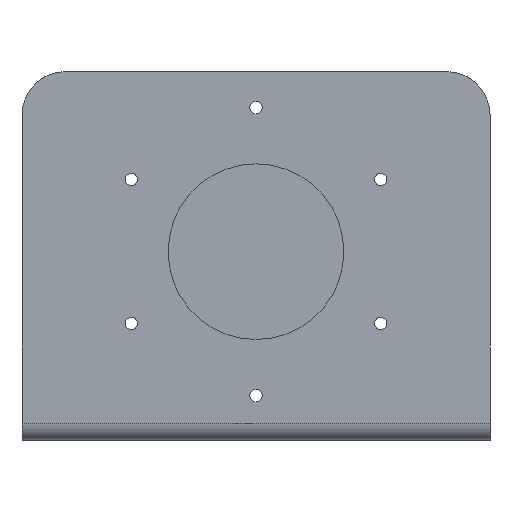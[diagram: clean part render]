
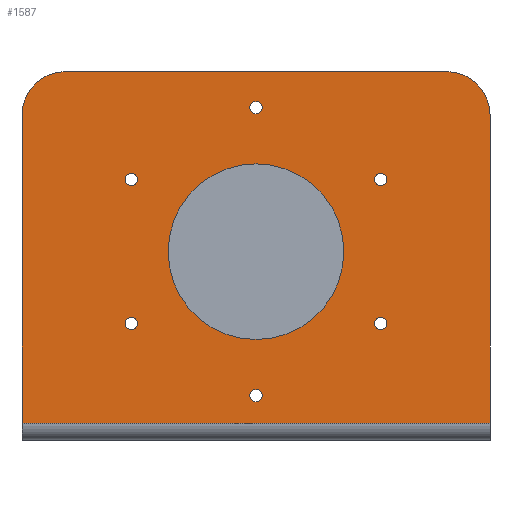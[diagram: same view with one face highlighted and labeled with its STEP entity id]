
A CAD part, front view. The second image highlights one B-rep face of the part: STEP entity #1587.
In plain terms, the highlighted planar face has unit normal (0, -1, 0).
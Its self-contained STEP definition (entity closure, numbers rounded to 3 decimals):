
#36=DIRECTION('',(0.,0.,-1.));
#37=VECTOR('',#36,214.);
#38=CARTESIAN_POINT('',(-162.5,0.,226.));
#39=LINE('',#38,#37);
#373=CARTESIAN_POINT('',(0.,0.,31.));
#374=DIRECTION('',(0.,1.,0.));
#375=DIRECTION('',(-1.,0.,0.));
#376=AXIS2_PLACEMENT_3D('',#373,#374,#375);
#378=CARTESIAN_POINT('',(0.,0.,31.));
#379=DIRECTION('',(0.,1.,0.));
#380=DIRECTION('',(1.,0.,0.));
#381=AXIS2_PLACEMENT_3D('',#378,#379,#380);
#383=CARTESIAN_POINT('',(-86.603,0.,81.));
#384=DIRECTION('',(0.,1.,0.));
#385=DIRECTION('',(0.5,0.,-0.866));
#386=AXIS2_PLACEMENT_3D('',#383,#384,#385);
#388=CARTESIAN_POINT('',(-86.603,0.,81.));
#389=DIRECTION('',(0.,1.,0.));
#390=DIRECTION('',(-0.5,0.,0.866));
#391=AXIS2_PLACEMENT_3D('',#388,#389,#390);
#393=CARTESIAN_POINT('',(-86.603,0.,181.));
#394=DIRECTION('',(0.,1.,0.));
#395=DIRECTION('',(0.5,0.,0.866));
#396=AXIS2_PLACEMENT_3D('',#393,#394,#395);
#398=CARTESIAN_POINT('',(-86.603,0.,181.));
#399=DIRECTION('',(0.,1.,0.));
#400=DIRECTION('',(-0.5,0.,-0.866));
#401=AXIS2_PLACEMENT_3D('',#398,#399,#400);
#403=CARTESIAN_POINT('',(86.603,0.,181.));
#404=DIRECTION('',(0.,1.,0.));
#405=DIRECTION('',(-0.5,0.,0.866));
#406=AXIS2_PLACEMENT_3D('',#403,#404,#405);
#408=CARTESIAN_POINT('',(86.603,0.,181.));
#409=DIRECTION('',(0.,1.,0.));
#410=DIRECTION('',(0.5,0.,-0.866));
#411=AXIS2_PLACEMENT_3D('',#408,#409,#410);
#413=CARTESIAN_POINT('',(86.603,0.,81.));
#414=DIRECTION('',(0.,1.,0.));
#415=DIRECTION('',(-0.5,0.,-0.866));
#416=AXIS2_PLACEMENT_3D('',#413,#414,#415);
#418=CARTESIAN_POINT('',(86.603,0.,81.));
#419=DIRECTION('',(0.,1.,0.));
#420=DIRECTION('',(0.5,0.,0.866));
#421=AXIS2_PLACEMENT_3D('',#418,#419,#420);
#423=CARTESIAN_POINT('',(0.,0.,231.));
#424=DIRECTION('',(0.,1.,0.));
#425=DIRECTION('',(-1.,0.,0.));
#426=AXIS2_PLACEMENT_3D('',#423,#424,#425);
#428=CARTESIAN_POINT('',(0.,0.,231.));
#429=DIRECTION('',(0.,1.,0.));
#430=DIRECTION('',(1.,0.,0.));
#431=AXIS2_PLACEMENT_3D('',#428,#429,#430);
#433=CARTESIAN_POINT('',(0.,0.,131.));
#434=DIRECTION('',(0.,1.,0.));
#435=DIRECTION('',(1.,0.,0.));
#436=AXIS2_PLACEMENT_3D('',#433,#434,#435);
#438=CARTESIAN_POINT('',(0.,0.,131.));
#439=DIRECTION('',(0.,1.,0.));
#440=DIRECTION('',(-1.,0.,0.));
#441=AXIS2_PLACEMENT_3D('',#438,#439,#440);
#443=CARTESIAN_POINT('',(-132.5,0.,226.));
#444=DIRECTION('',(0.,-1.,0.));
#445=DIRECTION('',(0.,0.,1.));
#446=AXIS2_PLACEMENT_3D('',#443,#444,#445);
#448=DIRECTION('',(1.,0.,0.));
#449=VECTOR('',#448,265.);
#450=CARTESIAN_POINT('',(-132.5,0.,256.));
#451=LINE('',#450,#449);
#452=CARTESIAN_POINT('',(132.5,0.,226.));
#453=DIRECTION('',(0.,-1.,0.));
#454=DIRECTION('',(1.,0.,0.));
#455=AXIS2_PLACEMENT_3D('',#452,#453,#454);
#557=DIRECTION('',(0.,0.,-1.));
#558=VECTOR('',#557,214.);
#559=CARTESIAN_POINT('',(162.5,0.,226.));
#560=LINE('',#559,#558);
#577=DIRECTION('',(1.,0.,0.));
#578=VECTOR('',#577,325.);
#579=CARTESIAN_POINT('',(-162.5,0.,12.));
#580=LINE('',#579,#578);
#883=CARTESIAN_POINT('',(-162.5,0.,12.));
#885=VERTEX_POINT('',#883);
#891=CARTESIAN_POINT('',(162.5,0.,12.));
#893=VERTEX_POINT('',#891);
#943=CARTESIAN_POINT('',(-132.5,0.,256.));
#944=VERTEX_POINT('',#943);
#945=CARTESIAN_POINT('',(-162.5,0.,226.));
#946=VERTEX_POINT('',#945);
#947=CARTESIAN_POINT('',(162.5,0.,226.));
#948=CARTESIAN_POINT('',(132.5,0.,256.));
#949=VERTEX_POINT('',#947);
#950=VERTEX_POINT('',#948);
#1027=CARTESIAN_POINT('',(-4.25,0.,31.));
#1028=CARTESIAN_POINT('',(4.25,0.,31.));
#1029=VERTEX_POINT('',#1027);
#1030=VERTEX_POINT('',#1028);
#1031=CARTESIAN_POINT('',(-84.478,0.,77.319));
#1032=CARTESIAN_POINT('',(-88.728,0.,84.681));
#1033=VERTEX_POINT('',#1031);
#1034=VERTEX_POINT('',#1032);
#1035=CARTESIAN_POINT('',(-84.478,0.,184.681));
#1036=CARTESIAN_POINT('',(-88.728,0.,177.319));
#1037=VERTEX_POINT('',#1035);
#1038=VERTEX_POINT('',#1036);
#1039=CARTESIAN_POINT('',(84.478,0.,184.681));
#1040=CARTESIAN_POINT('',(88.728,0.,177.319));
#1041=VERTEX_POINT('',#1039);
#1042=VERTEX_POINT('',#1040);
#1043=CARTESIAN_POINT('',(84.479,0.,77.319));
#1044=CARTESIAN_POINT('',(88.727,0.,84.681));
#1045=VERTEX_POINT('',#1043);
#1046=VERTEX_POINT('',#1044);
#1047=CARTESIAN_POINT('',(-4.25,0.,231.));
#1048=CARTESIAN_POINT('',(4.25,0.,231.));
#1049=VERTEX_POINT('',#1047);
#1050=VERTEX_POINT('',#1048);
#1051=CARTESIAN_POINT('',(61.,0.,131.));
#1052=CARTESIAN_POINT('',(-61.,0.,131.));
#1053=VERTEX_POINT('',#1051);
#1054=VERTEX_POINT('',#1052);
#1529=CARTESIAN_POINT('',(-162.5,0.,256.));
#1530=DIRECTION('',(0.,-1.,0.));
#1531=DIRECTION('',(0.,0.,-1.));
#1532=AXIS2_PLACEMENT_3D('',#1529,#1530,#1531);
#1533=PLANE('',#1532);
#1535=ORIENTED_EDGE('',*,*,#1534,.F.);
#1537=ORIENTED_EDGE('',*,*,#1536,.T.);
#1539=ORIENTED_EDGE('',*,*,#1538,.F.);
#1541=ORIENTED_EDGE('',*,*,#1540,.T.);
#1543=ORIENTED_EDGE('',*,*,#1542,.F.);
#1544=ORIENTED_EDGE('',*,*,#1150,.F.);
#1545=EDGE_LOOP('',(#1535,#1537,#1539,#1541,#1543,#1544));
#1546=FACE_OUTER_BOUND('',#1545,.F.);
#1548=ORIENTED_EDGE('',*,*,#1547,.F.);
#1550=ORIENTED_EDGE('',*,*,#1549,.F.);
#1551=EDGE_LOOP('',(#1548,#1550));
#1552=FACE_BOUND('',#1551,.F.);
#1554=ORIENTED_EDGE('',*,*,#1553,.F.);
#1556=ORIENTED_EDGE('',*,*,#1555,.F.);
#1557=EDGE_LOOP('',(#1554,#1556));
#1558=FACE_BOUND('',#1557,.F.);
#1560=ORIENTED_EDGE('',*,*,#1559,.F.);
#1562=ORIENTED_EDGE('',*,*,#1561,.F.);
#1563=EDGE_LOOP('',(#1560,#1562));
#1564=FACE_BOUND('',#1563,.F.);
#1566=ORIENTED_EDGE('',*,*,#1565,.F.);
#1568=ORIENTED_EDGE('',*,*,#1567,.F.);
#1569=EDGE_LOOP('',(#1566,#1568));
#1570=FACE_BOUND('',#1569,.F.);
#1572=ORIENTED_EDGE('',*,*,#1571,.F.);
#1574=ORIENTED_EDGE('',*,*,#1573,.F.);
#1575=EDGE_LOOP('',(#1572,#1574));
#1576=FACE_BOUND('',#1575,.F.);
#1578=ORIENTED_EDGE('',*,*,#1577,.F.);
#1580=ORIENTED_EDGE('',*,*,#1579,.F.);
#1581=EDGE_LOOP('',(#1578,#1580));
#1582=FACE_BOUND('',#1581,.F.);
#1583=ORIENTED_EDGE('',*,*,#1509,.F.);
#1584=ORIENTED_EDGE('',*,*,#1523,.F.);
#1585=EDGE_LOOP('',(#1583,#1584));
#1586=FACE_BOUND('',#1585,.F.);
#377=CIRCLE('',#376,4.25);
#382=CIRCLE('',#381,4.25);
#387=CIRCLE('',#386,4.25);
#392=CIRCLE('',#391,4.25);
#397=CIRCLE('',#396,4.25);
#402=CIRCLE('',#401,4.25);
#407=CIRCLE('',#406,4.25);
#412=CIRCLE('',#411,4.25);
#417=CIRCLE('',#416,4.25);
#422=CIRCLE('',#421,4.25);
#427=CIRCLE('',#426,4.25);
#432=CIRCLE('',#431,4.25);
#437=CIRCLE('',#436,61.);
#442=CIRCLE('',#441,61.);
#447=CIRCLE('',#446,30.);
#456=CIRCLE('',#455,30.);
#1150=EDGE_CURVE('',#946,#885,#39,.T.);
#1509=EDGE_CURVE('',#1029,#1030,#377,.T.);
#1523=EDGE_CURVE('',#1030,#1029,#382,.T.);
#1534=EDGE_CURVE('',#944,#946,#447,.T.);
#1536=EDGE_CURVE('',#944,#950,#451,.T.);
#1538=EDGE_CURVE('',#949,#950,#456,.T.);
#1540=EDGE_CURVE('',#949,#893,#560,.T.);
#1542=EDGE_CURVE('',#885,#893,#580,.T.);
#1547=EDGE_CURVE('',#1033,#1034,#387,.T.);
#1549=EDGE_CURVE('',#1034,#1033,#392,.T.);
#1553=EDGE_CURVE('',#1037,#1038,#397,.T.);
#1555=EDGE_CURVE('',#1038,#1037,#402,.T.);
#1559=EDGE_CURVE('',#1041,#1042,#407,.T.);
#1561=EDGE_CURVE('',#1042,#1041,#412,.T.);
#1565=EDGE_CURVE('',#1045,#1046,#417,.T.);
#1567=EDGE_CURVE('',#1046,#1045,#422,.T.);
#1571=EDGE_CURVE('',#1049,#1050,#427,.T.);
#1573=EDGE_CURVE('',#1050,#1049,#432,.T.);
#1577=EDGE_CURVE('',#1053,#1054,#437,.T.);
#1579=EDGE_CURVE('',#1054,#1053,#442,.T.);
#1587=ADVANCED_FACE('',(#1546,#1552,#1558,#1564,#1570,#1576,#1582,#1586),#1533,
.T.);
